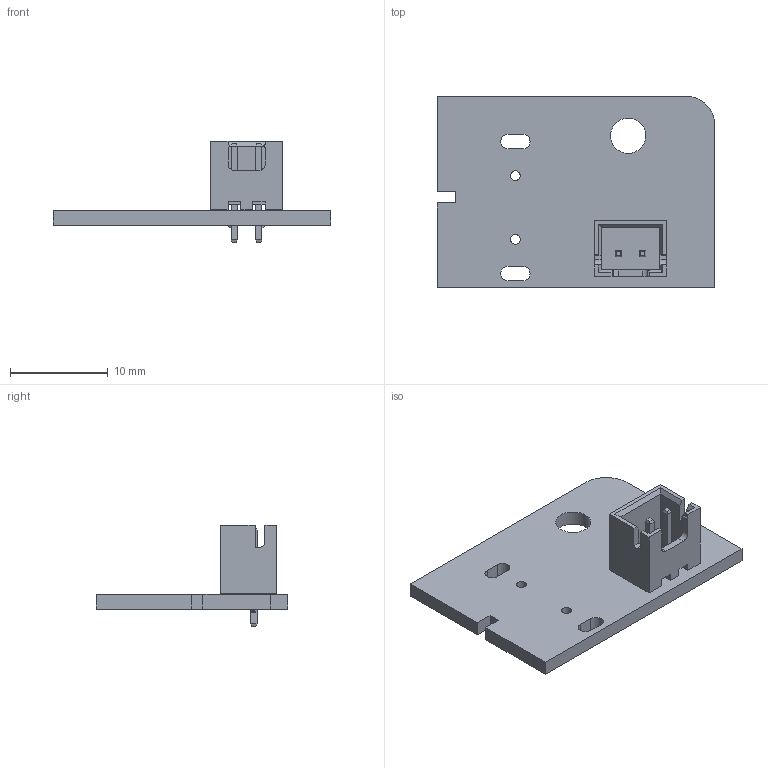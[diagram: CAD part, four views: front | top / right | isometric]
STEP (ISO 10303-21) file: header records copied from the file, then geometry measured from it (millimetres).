
FILE_DESCRIPTION(('KiCad electronic assembly'),'2;1');
FILE_NAME('GCPC Power Button.step','2025-06-17T12:00:53',('Pcbnew'),( 'Kicad'),'Open CASCADE STEP processor 7.8','KiCad to STEP converter' ,'Unknown');
FILE_SCHEMA(('AUTOMOTIVE_DESIGN { 1 0 10303 214 1 1 1 1 }'));
Length unit declared in the file: millimetre
Products named in the file (4): GCPC Power Button 1; B2B-XH-A; BxB-XH-A_02; GCPC Power Button_PCB
Assembly tree (3 placements, depth 3):
  GCPC Power Button 1
    B2B-XH-A
      BxB-XH-A_02
    GCPC Power Button_PCB
Bounding box: 28.39 x 19.6 x 10.4 mm (x, y, z)
Volume: 928.1 mm3; surface area: 1700.2 mm2
Topology: 4 solids, 4 shells, 139 faces, 357 edges, 226 vertices
Faces by surface type: plane 122, cylinder 17
Full cylindrical faces by diameter (mm): 1 x2, 1.05 x2, 3.6 x1
Entity records: 4243 total; most frequent: CARTESIAN_POINT 735, ORIENTED_EDGE 714, DIRECTION 673, EDGE_CURVE 357, LINE 321, VECTOR 321, VERTEX_POINT 226, AXIS2_PLACEMENT_3D 176
